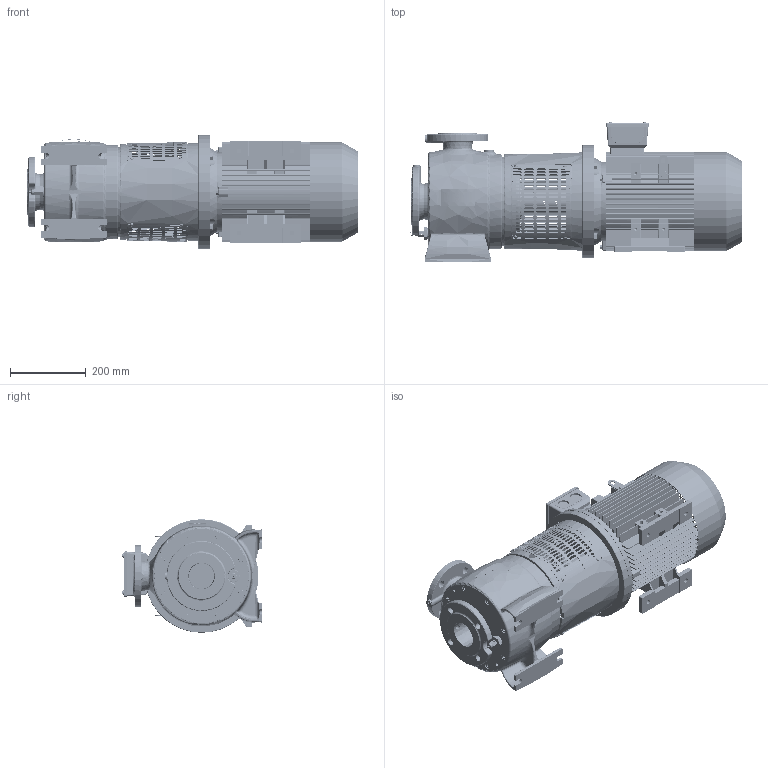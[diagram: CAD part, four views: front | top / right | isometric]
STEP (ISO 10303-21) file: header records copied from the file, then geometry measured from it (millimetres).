
FILE_DESCRIPTION((''),'2;1');
FILE_NAME('S70-50-175_N_A02_ASM','2019-09-27T',('BRHE'),(''),'PRO/ENGINEER BY PARAMETRIC TECHNOLOGY CORPORATION, 2017170','PRO/ENGINEER BY PARAMETRIC TECHNOLOGY CORPORATION, 2017170','');
FILE_SCHEMA(('CONFIG_CONTROL_DESIGN'));
Products named in the file (38): 704008; 704010; 704007; 510730; 510890; 704367; 704034; 516014; 517840; 517450; 516211; 673908_ASM; 514161; 710404; 704188; 704186; 702850; 702852; 110371; 705392; 674710_ASM; 673909_ASM; 510760; 703723; 110554; 706717; 704048; 704047_AF0; 673967_ASM; 673962_ASM; 110532; 110561; 700410; 700317; 703239; 672118_ASM; 842285; S70-50-175_N_A02_ASM
Assembly tree (76 placements, depth 6):
  S70-50-175_N_A02_ASM
    673962_ASM
      673967_ASM
        704008
        704010
        704007
        510730
        510890
        704367  x4
        704034
        516014
        673909_ASM
          517840
          673908_ASM
            517450
            516211
          514161
          710404
          704188  x2
          704186  x2
          702850  x2
          702852
          674710_ASM
            110371
            705392
          704367  x8
        510760
        703723  x8
        110554  x2
        706717  x8
        704048
        704047_AF0
    672118_ASM
      110532
      110561
      700410  x8
      700317  x4
      703239
    842285
Bounding box: 876.45 x 370.5 x 300 mm (x, y, z)
Volume: 28004045 mm3; surface area: 3033043.1 mm2
Topology: 80 solids, 145 shells, 6819 faces, 18082 edges, 11594 vertices
Faces by surface type: plane 3426, cylinder 1471, bspline 919, torus 440, cone 373, sphere 137, extrusion 53
Entity records: 230888 total; most frequent: CARTESIAN_POINT 90198, ORIENTED_EDGE 30068, DIRECTION 27098, EDGE_CURVE 15139, VERTEX_POINT 9736, AXIS2_PLACEMENT_3D 9055, VECTOR 8988, LINE 8935
